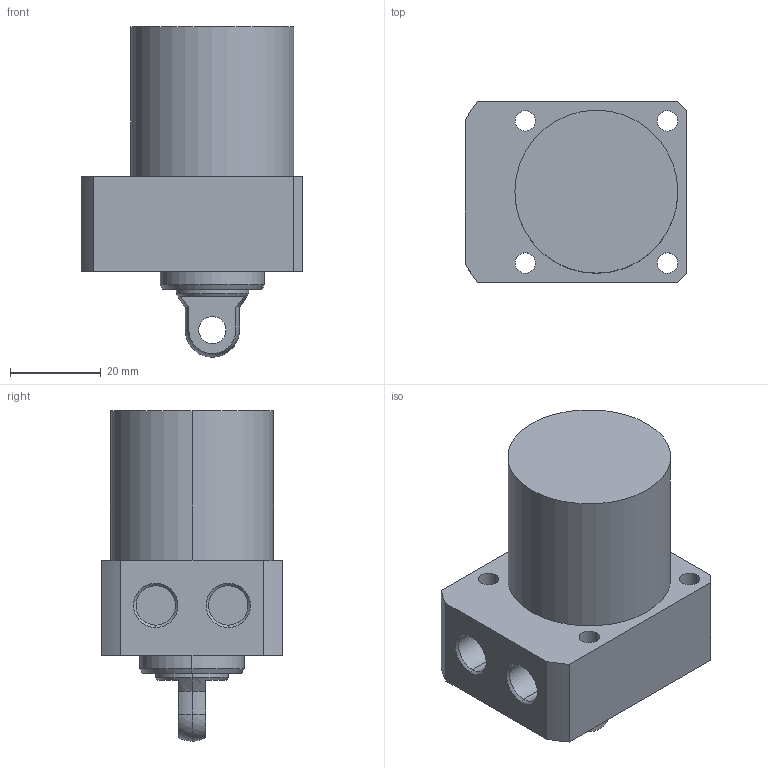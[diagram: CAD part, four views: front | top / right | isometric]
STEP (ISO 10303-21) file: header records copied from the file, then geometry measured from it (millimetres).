
FILE_DESCRIPTION (( 'STEP AP203' ), '1' );
FILE_NAME ('CLLR036-CP-25.STEP', '2017-05-10T08:58:13', ( '' ), ( '' ), 'SwSTEP 2.0', 'SolidWorks 2015', '' );
FILE_SCHEMA (( 'CONFIG_CONTROL_DESIGN' ));
Length unit declared in the file: millimetre
Products named in the file (1): CLLR036-CP-25
Bounding box: 49 x 40 x 73 mm (x, y, z)
Volume: 74135.1 mm3; surface area: 13756.1 mm2
Topology: 1 solids, 1 shells, 57 faces, 135 edges, 87 vertices
Faces by surface type: cylinder 29, plane 18, cone 8, sphere 2
Entity records: 1770 total; most frequent: DIRECTION 319, CARTESIAN_POINT 292, ORIENTED_EDGE 270, EDGE_CURVE 135, AXIS2_PLACEMENT_3D 130, VERTEX_POINT 87, EDGE_LOOP 74, CIRCLE 72
